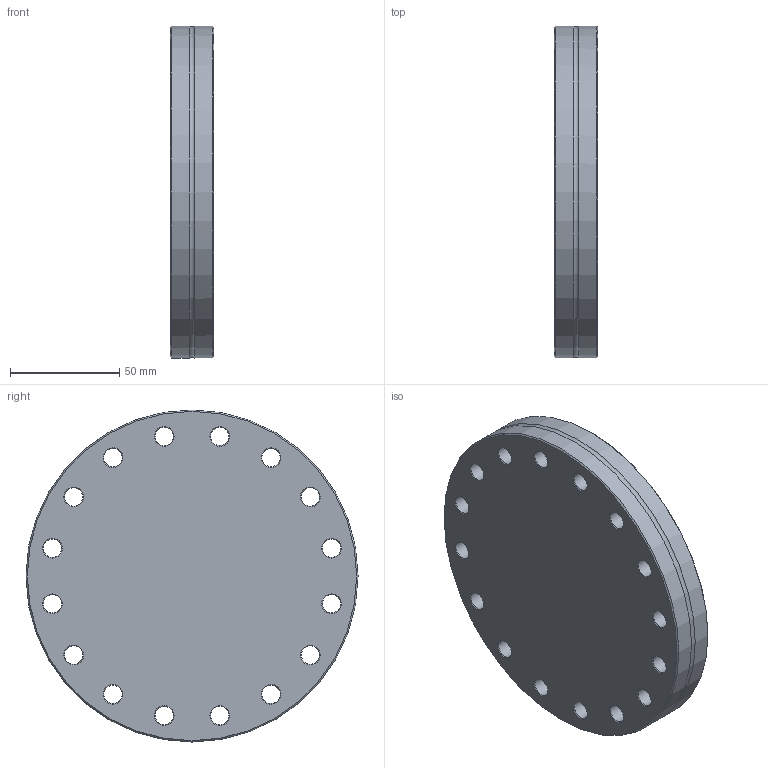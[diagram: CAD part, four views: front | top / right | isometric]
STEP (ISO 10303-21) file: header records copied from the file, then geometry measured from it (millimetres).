
FILE_DESCRIPTION((''),'2;1');
FILE_NAME('W:\13785_CF_Global_Fit_Umsetzung\001_Blank_Flange\M213-004.stp','2010-09-01T09:36:31',('KAA'),(''),'Autodesk Inventor 2011','Autodesk Inventor 2011','');
FILE_SCHEMA(('AUTOMOTIVE_DESIGN { 1 0 10303 214 1 1 1 1 }'));
Length unit declared in the file: millimetre
Products named in the file (1): 213-004
Bounding box: 20 x 152 x 152 mm (x, y, z)
Volume: 329399.8 mm3; surface area: 52688 mm2
Topology: 1 solids, 1 shells, 66 faces, 165 edges, 102 vertices
Faces by surface type: cone 39, cylinder 19, torus 4, plane 4
Full cylindrical faces by diameter (mm): 8.4 x16, 152 x2
Entity records: 1640 total; most frequent: DIRECTION 296, CARTESIAN_POINT 276, ORIENTED_EDGE 178, EDGE_LOOP 158, AXIS2_PLACEMENT_3D 147, FACE_BOUND 92, EDGE_CURVE 89, VERTEX_POINT 85
